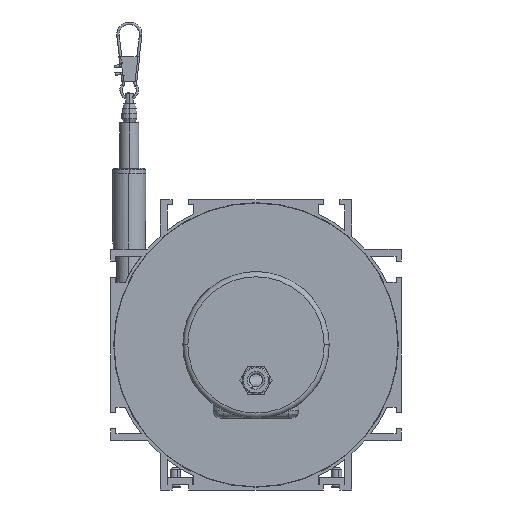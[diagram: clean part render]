
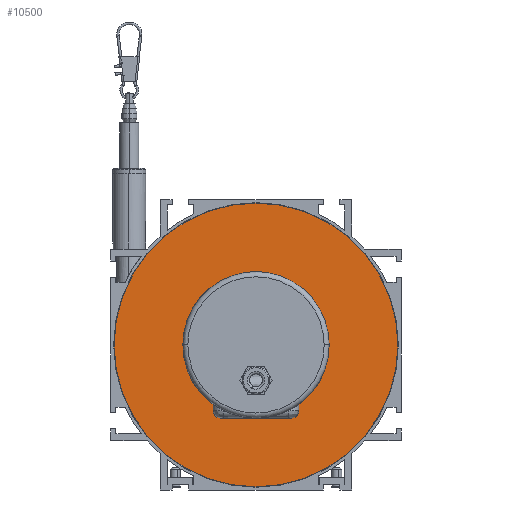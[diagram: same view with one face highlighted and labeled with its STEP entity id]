
A CAD part, left-side view. The second image highlights one B-rep face of the part: STEP entity #10500.
In plain terms, the highlighted planar face has unit normal (-1, 0, 0).
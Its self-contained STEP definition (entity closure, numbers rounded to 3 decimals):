
#3102=CARTESIAN_POINT('',(0.,0.,0.));
#3103=DIRECTION('',(1.,0.,0.));
#3104=DIRECTION('',(0.,1.,0.));
#3105=AXIS2_PLACEMENT_3D('',#3102,#3103,#3104);
#3107=CARTESIAN_POINT('',(0.,0.,0.));
#3108=DIRECTION('',(1.,0.,0.));
#3109=DIRECTION('',(0.,-1.,0.));
#3110=AXIS2_PLACEMENT_3D('',#3107,#3108,#3109);
#3112=CARTESIAN_POINT('',(0.,0.,0.));
#3113=DIRECTION('',(1.,0.,0.));
#3114=DIRECTION('',(0.,-1.,0.));
#3115=AXIS2_PLACEMENT_3D('',#3112,#3113,#3114);
#3117=CARTESIAN_POINT('',(0.,0.,0.));
#3118=DIRECTION('',(1.,0.,0.));
#3119=DIRECTION('',(0.,1.,0.));
#3120=AXIS2_PLACEMENT_3D('',#3117,#3118,#3119);
#5596=CARTESIAN_POINT('',(0.,-29.,0.));
#5597=CARTESIAN_POINT('',(0.,29.,0.));
#5598=VERTEX_POINT('',#5596);
#5599=VERTEX_POINT('',#5597);
#5618=CARTESIAN_POINT('',(0.,56.25,0.));
#5619=CARTESIAN_POINT('',(0.,-56.25,0.));
#5620=VERTEX_POINT('',#5618);
#5621=VERTEX_POINT('',#5619);
#10485=CARTESIAN_POINT('',(0.,0.,0.));
#10486=DIRECTION('',(-1.,0.,0.));
#10487=DIRECTION('',(0.,1.,0.));
#10488=AXIS2_PLACEMENT_3D('',#10485,#10486,#10487);
#10489=PLANE('',#10488);
#10490=ORIENTED_EDGE('',*,*,#10465,.T.);
#10491=ORIENTED_EDGE('',*,*,#10479,.T.);
#10492=EDGE_LOOP('',(#10490,#10491));
#10493=FACE_OUTER_BOUND('',#10492,.F.);
#10495=ORIENTED_EDGE('',*,*,#10494,.F.);
#10497=ORIENTED_EDGE('',*,*,#10496,.F.);
#10498=EDGE_LOOP('',(#10495,#10497));
#10499=FACE_BOUND('',#10498,.F.);
#10500=ADVANCED_FACE('',(#10493,#10499),#10489,.T.);
#3106=CIRCLE('',#3105,56.25);
#3111=CIRCLE('',#3110,56.25);
#3116=CIRCLE('',#3115,29.);
#3121=CIRCLE('',#3120,29.);
#10465=EDGE_CURVE('',#5620,#5621,#3106,.T.);
#10479=EDGE_CURVE('',#5621,#5620,#3111,.T.);
#10494=EDGE_CURVE('',#5598,#5599,#3116,.T.);
#10496=EDGE_CURVE('',#5599,#5598,#3121,.T.);
